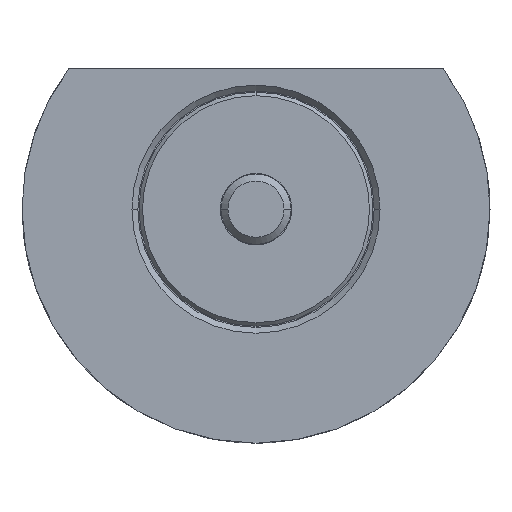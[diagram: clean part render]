
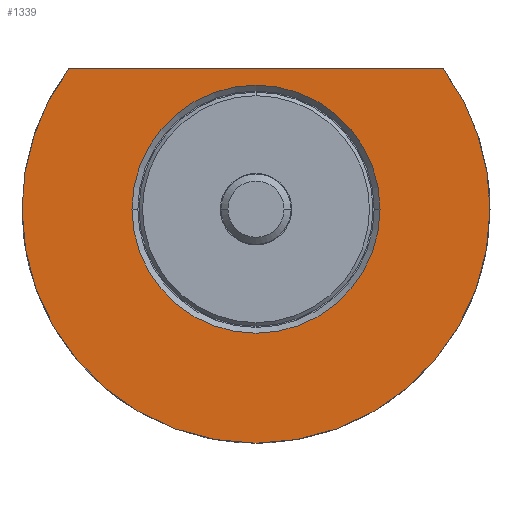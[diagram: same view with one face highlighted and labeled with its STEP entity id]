
A CAD part, front view. The second image highlights one B-rep face of the part: STEP entity #1339.
In plain terms, the highlighted planar face has unit normal (0, -1, 0).
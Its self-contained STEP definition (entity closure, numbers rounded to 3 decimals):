
#139 = VERTEX_POINT ( 'NONE', #669 ) ;
#156 = AXIS2_PLACEMENT_3D ( 'NONE', #2289, #456, #1463 ) ;
#247 = CARTESIAN_POINT ( 'NONE',  ( 16.001, -10., 11.999 ) ) ;
#252 = DIRECTION ( 'NONE',  ( 0., -1., 0. ) ) ;
#258 = AXIS2_PLACEMENT_3D ( 'NONE', #2454, #1474, #638 ) ;
#289 = AXIS2_PLACEMENT_3D ( 'NONE', #309, #1760, #2562 ) ;
#309 = CARTESIAN_POINT ( 'NONE',  ( 0., -10., 0. ) ) ;
#319 = EDGE_CURVE ( 'NONE', #1851, #471, #1710, .T. ) ;
#341 = ORIENTED_EDGE ( 'NONE', *, *, #531, .F. ) ;
#399 = ORIENTED_EDGE ( 'NONE', *, *, #2547, .T. ) ;
#408 = CARTESIAN_POINT ( 'NONE',  ( 0., -10., 0. ) ) ;
#427 = ORIENTED_EDGE ( 'NONE', *, *, #1537, .F. ) ;
#456 = DIRECTION ( 'NONE',  ( 0., 1., 0. ) ) ;
#471 = VERTEX_POINT ( 'NONE', #1154 ) ;
#474 = FACE_BOUND ( 'NONE', #2168, .T. ) ;
#519 = DIRECTION ( 'NONE',  ( 0., 1., 0. ) ) ;
#531 = EDGE_CURVE ( 'NONE', #961, #1851, #1842, .T. ) ;
#615 = DIRECTION ( 'NONE',  ( 0., 1., 0. ) ) ;
#617 = ORIENTED_EDGE ( 'NONE', *, *, #1128, .T. ) ;
#638 = DIRECTION ( 'NONE',  ( -1., 0., 0. ) ) ;
#669 = CARTESIAN_POINT ( 'NONE',  ( -16.001, -10., 11.999 ) ) ;
#788 = EDGE_LOOP ( 'NONE', ( #341, #2477, #427, #1940 ) ) ;
#794 = CARTESIAN_POINT ( 'NONE',  ( -10.6, -10., 0. ) ) ;
#819 = AXIS2_PLACEMENT_3D ( 'NONE', #408, #615, #2024 ) ;
#907 = DIRECTION ( 'NONE',  ( 1., 0., 0. ) ) ;
#935 = DIRECTION ( 'NONE',  ( -1., 0., 0. ) ) ;
#961 = VERTEX_POINT ( 'NONE', #247 ) ;
#1070 = LINE ( 'NONE', #2064, #2091 ) ;
#1074 = CARTESIAN_POINT ( 'NONE',  ( 20., -10., 0. ) ) ;
#1128 = EDGE_CURVE ( 'NONE', #1432, #1183, #1968, .T. ) ;
#1148 = EDGE_CURVE ( 'NONE', #961, #139, #1070, .T. ) ;
#1154 = CARTESIAN_POINT ( 'NONE',  ( -20., -10., 0. ) ) ;
#1183 = VERTEX_POINT ( 'NONE', #2651 ) ;
#1239 = DIRECTION ( 'NONE',  ( -1., 0., 0. ) ) ;
#1305 = PLANE ( 'NONE',  #1716 ) ;
#1326 = CARTESIAN_POINT ( 'NONE',  ( 0., -10., 0. ) ) ;
#1339 = ADVANCED_FACE ( 'NONE', ( #474, #1541 ), #1305, .T. ) ;
#1432 = VERTEX_POINT ( 'NONE', #794 ) ;
#1463 = DIRECTION ( 'NONE',  ( -1., 0., 0. ) ) ;
#1474 = DIRECTION ( 'NONE',  ( 0., 1., 0. ) ) ;
#1537 = EDGE_CURVE ( 'NONE', #471, #139, #2473, .T. ) ;
#1541 = FACE_OUTER_BOUND ( 'NONE', #788, .T. ) ;
#1710 = CIRCLE ( 'NONE', #1799, 20. ) ;
#1716 = AXIS2_PLACEMENT_3D ( 'NONE', #2103, #252, #907 ) ;
#1760 = DIRECTION ( 'NONE',  ( 0., 1., 0. ) ) ;
#1799 = AXIS2_PLACEMENT_3D ( 'NONE', #1326, #519, #935 ) ;
#1842 = CIRCLE ( 'NONE', #819, 20. ) ;
#1851 = VERTEX_POINT ( 'NONE', #1074 ) ;
#1940 = ORIENTED_EDGE ( 'NONE', *, *, #319, .F. ) ;
#1968 = CIRCLE ( 'NONE', #156, 10.6 ) ;
#2024 = DIRECTION ( 'NONE',  ( -1., 0., 0. ) ) ;
#2064 = CARTESIAN_POINT ( 'NONE',  ( -10.6, -10., 11.999 ) ) ;
#2091 = VECTOR ( 'NONE', #1239, 1000. ) ;
#2103 = CARTESIAN_POINT ( 'NONE',  ( -10.6, -10., 0. ) ) ;
#2168 = EDGE_LOOP ( 'NONE', ( #399, #617 ) ) ;
#2289 = CARTESIAN_POINT ( 'NONE',  ( 0., -10., 0. ) ) ;
#2454 = CARTESIAN_POINT ( 'NONE',  ( 0., -10., 0. ) ) ;
#2473 = CIRCLE ( 'NONE', #289, 20. ) ;
#2477 = ORIENTED_EDGE ( 'NONE', *, *, #1148, .T. ) ;
#2533 = CIRCLE ( 'NONE', #258, 10.6 ) ;
#2547 = EDGE_CURVE ( 'NONE', #1183, #1432, #2533, .T. ) ;
#2562 = DIRECTION ( 'NONE',  ( -1., 0., 0. ) ) ;
#2651 = CARTESIAN_POINT ( 'NONE',  ( 10.6, -10., 0. ) ) ;
